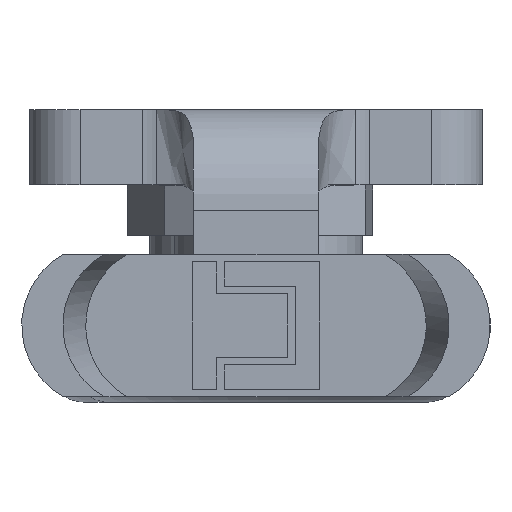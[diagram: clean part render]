
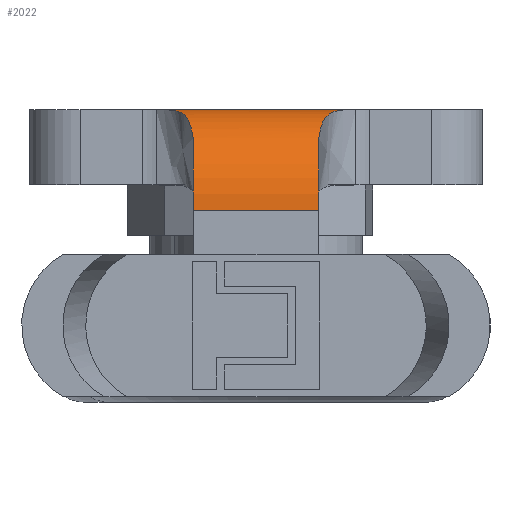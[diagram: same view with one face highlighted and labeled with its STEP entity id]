
A CAD part, left-side view. The second image highlights one B-rep face of the part: STEP entity #2022.
In plain terms, the highlighted cylindrical face has radius 4 mm (diameter 8 mm), a partial arc.
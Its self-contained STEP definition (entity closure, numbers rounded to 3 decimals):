
#26 = CARTESIAN_POINT ( 'NONE',  ( -36.617, -3.23, -0.048 ) ) ;
#51 = CARTESIAN_POINT ( 'NONE',  ( -36.468, -3.365, -0.027 ) ) ;
#88 = VERTEX_POINT ( 'NONE', #2948 ) ;
#102 = CARTESIAN_POINT ( 'NONE',  ( -37.24, 2.855, -0.194 ) ) ;
#147 = CARTESIAN_POINT ( 'NONE',  ( -37.933, 2.648, -0.477 ) ) ;
#317 = VERTEX_POINT ( 'NONE', #2478 ) ;
#414 = CARTESIAN_POINT ( 'NONE',  ( -36., -3.965, 0. ) ) ;
#437 = CARTESIAN_POINT ( 'NONE',  ( -36.242, -3.62, -0.006 ) ) ;
#442 = CARTESIAN_POINT ( 'NONE',  ( -36.856, 3.04, -0.093 ) ) ;
#464 = CARTESIAN_POINT ( 'NONE',  ( -36.883, 3.024, -0.099 ) ) ;
#489 = CARTESIAN_POINT ( 'NONE',  ( -36.504, 3.296, -0.023 ) ) ;
#538 = EDGE_CURVE ( 'NONE', #3998, #2258, #848, .T. ) ;
#727 = AXIS2_PLACEMENT_3D ( 'NONE', #2259, #2908, #962 ) ;
#739 = CARTESIAN_POINT ( 'NONE',  ( -38.787, -2.5, -1.131 ) ) ;
#848 = CIRCLE ( 'NONE', #3826, 4. ) ;
#858 = CARTESIAN_POINT ( 'NONE',  ( -38.364, 2.566, -0.72 ) ) ;
#908 = CARTESIAN_POINT ( 'NONE',  ( -36., 2.5, -4. ) ) ;
#962 = DIRECTION ( 'NONE',  ( 0., 0., 1. ) ) ;
#1125 = CARTESIAN_POINT ( 'NONE',  ( -36.693, -3.17, -0.06 ) ) ;
#1159 = CARTESIAN_POINT ( 'NONE',  ( -36.78, 3.09, -0.077 ) ) ;
#1180 = CARTESIAN_POINT ( 'NONE',  ( -36.768, 3.098, -0.074 ) ) ;
#1198 = CARTESIAN_POINT ( 'NONE',  ( -36., 3.965, 0. ) ) ;
#1262 = CARTESIAN_POINT ( 'NONE',  ( -36., 9., 0. ) ) ;
#1303 = DIRECTION ( 'NONE',  ( 0., 0., 1. ) ) ;
#1324 = ORIENTED_EDGE ( 'NONE', *, *, #538, .F. ) ;
#1358 = CIRCLE ( 'NONE', #727, 4. ) ;
#1387 = EDGE_CURVE ( 'NONE', #317, #1768, #3983, .T. ) ;
#1434 = CARTESIAN_POINT ( 'NONE',  ( -36.546, -3.291, -0.037 ) ) ;
#1481 = CARTESIAN_POINT ( 'NONE',  ( -40., -2.5, -4. ) ) ;
#1484 = CARTESIAN_POINT ( 'NONE',  ( -37.033, 2.945, -0.135 ) ) ;
#1768 = VERTEX_POINT ( 'NONE', #739 ) ;
#1775 = CARTESIAN_POINT ( 'NONE',  ( -37.344, -2.824, -0.214 ) ) ;
#1852 = CARTESIAN_POINT ( 'NONE',  ( -36.817, 3.065, -0.084 ) ) ;
#1867 = EDGE_CURVE ( 'NONE', #88, #317, #1913, .T. ) ;
#1884 = CARTESIAN_POINT ( 'NONE',  ( -40., 0., -4. ) ) ;
#1913 = LINE ( 'NONE', #1262, #2357 ) ;
#1956 = DIRECTION ( 'NONE',  ( 0., -1., 0. ) ) ;
#2022 = ADVANCED_FACE ( 'NONE', ( #3570 ), #2897, .T. ) ;
#2037 = ORIENTED_EDGE ( 'NONE', *, *, #1387, .F. ) ;
#2044 = ORIENTED_EDGE ( 'NONE', *, *, #3885, .F. ) ;
#2060 = CARTESIAN_POINT ( 'NONE',  ( -37.043, -2.947, -0.131 ) ) ;
#2128 = CARTESIAN_POINT ( 'NONE',  ( -36.123, -3.778, 0. ) ) ;
#2207 = DIRECTION ( 'NONE',  ( 0., 1., 0. ) ) ;
#2219 = DIRECTION ( 'NONE',  ( 0., 1., 0. ) ) ;
#2258 = VERTEX_POINT ( 'NONE', #4058 ) ;
#2259 = CARTESIAN_POINT ( 'NONE',  ( -36., -2.5, -4. ) ) ;
#2271 = DIRECTION ( 'NONE',  ( 0., 1., 0. ) ) ;
#2288 = ORIENTED_EDGE ( 'NONE', *, *, #3318, .F. ) ;
#2348 = EDGE_LOOP ( 'NONE', ( #1324, #2044, #4381, #2037, #3740, #2288 ) ) ;
#2357 = VECTOR ( 'NONE', #1956, 1000. ) ;
#2465 = CARTESIAN_POINT ( 'NONE',  ( -36.412, -3.423, -0.021 ) ) ;
#2469 = CARTESIAN_POINT ( 'NONE',  ( -36.805, 3.073, -0.082 ) ) ;
#2478 = CARTESIAN_POINT ( 'NONE',  ( -36., -3.965, 0. ) ) ;
#2702 = VECTOR ( 'NONE', #2219, 1000. ) ;
#2716 = CARTESIAN_POINT ( 'NONE',  ( -38.03, -2.626, -0.533 ) ) ;
#2735 = CARTESIAN_POINT ( 'NONE',  ( -36.593, -3.25, -0.044 ) ) ;
#2855 = CARTESIAN_POINT ( 'NONE',  ( -36.761, 3.104, -0.073 ) ) ;
#2873 = CARTESIAN_POINT ( 'NONE',  ( -36.25, 3.582, 0. ) ) ;
#2897 = CYLINDRICAL_SURFACE ( 'NONE', #4142, 4. ) ;
#2908 = DIRECTION ( 'NONE',  ( 0., -1., 0. ) ) ;
#2948 = CARTESIAN_POINT ( 'NONE',  ( -36., 3.965, 0. ) ) ;
#3041 = CARTESIAN_POINT ( 'NONE',  ( -36.536, -3.3, -0.036 ) ) ;
#3136 = CARTESIAN_POINT ( 'NONE',  ( -36.748, -3.131, -0.07 ) ) ;
#3318 = EDGE_CURVE ( 'NONE', #2258, #88, #3469, .T. ) ;
#3469 = B_SPLINE_CURVE_WITH_KNOTS ( 'NONE', 3,
 ( #3835, #858, #147, #4147, #102, #1484, #3529, #464, #442, #1852, #2469, #4231, #1159, #1180, #2855, #489, #2873, #1198 ),
 .UNSPECIFIED., .F., .F.,
 ( 4, 2, 2, 2, 2, 2, 2, 2, 4 ),
 ( 0., 0.25, 0.375, 0.438, 0.469, 0.484, 0.492, 0.5, 1. ),
 .UNSPECIFIED. ) ;
#3476 = CARTESIAN_POINT ( 'NONE',  ( -38.787, -2.5, -1.131 ) ) ;
#3529 = CARTESIAN_POINT ( 'NONE',  ( -36.97, 2.976, -0.119 ) ) ;
#3570 = FACE_OUTER_BOUND ( 'NONE', #2348, .T. ) ;
#3572 = DIRECTION ( 'NONE',  ( 0., 0., 1. ) ) ;
#3704 = CARTESIAN_POINT ( 'NONE',  ( -40., 2.5, -4. ) ) ;
#3740 = ORIENTED_EDGE ( 'NONE', *, *, #1867, .F. ) ;
#3790 = VERTEX_POINT ( 'NONE', #1481 ) ;
#3826 = AXIS2_PLACEMENT_3D ( 'NONE', #908, #2207, #3572 ) ;
#3827 = CARTESIAN_POINT ( 'NONE',  ( -38.416, -2.551, -0.77 ) ) ;
#3835 = CARTESIAN_POINT ( 'NONE',  ( -38.787, 2.5, -1.131 ) ) ;
#3885 = EDGE_CURVE ( 'NONE', #3790, #3998, #4333, .T. ) ;
#3954 = EDGE_CURVE ( 'NONE', #1768, #3790, #1358, .T. ) ;
#3983 = B_SPLINE_CURVE_WITH_KNOTS ( 'NONE', 3,
 ( #414, #2128, #437, #2465, #51, #3041, #1434, #2735, #26, #1125, #3136, #2060, #1775, #2716, #3827, #3476 ),
 .UNSPECIFIED., .F., .F.,
 ( 4, 2, 2, 2, 2, 2, 2, 4 ),
 ( 0., 0.25, 0.375, 0.406, 0.438, 0.5, 0.75, 1. ),
 .UNSPECIFIED. ) ;
#3998 = VERTEX_POINT ( 'NONE', #3704 ) ;
#4058 = CARTESIAN_POINT ( 'NONE',  ( -38.787, 2.5, -1.131 ) ) ;
#4142 = AXIS2_PLACEMENT_3D ( 'NONE', #4252, #2271, #1303 ) ;
#4147 = CARTESIAN_POINT ( 'NONE',  ( -37.4, 2.8, -0.248 ) ) ;
#4231 = CARTESIAN_POINT ( 'NONE',  ( -36.786, 3.086, -0.078 ) ) ;
#4252 = CARTESIAN_POINT ( 'NONE',  ( -36., -9.343, -4. ) ) ;
#4333 = LINE ( 'NONE', #1884, #2702 ) ;
#4381 = ORIENTED_EDGE ( 'NONE', *, *, #3954, .F. ) ;
